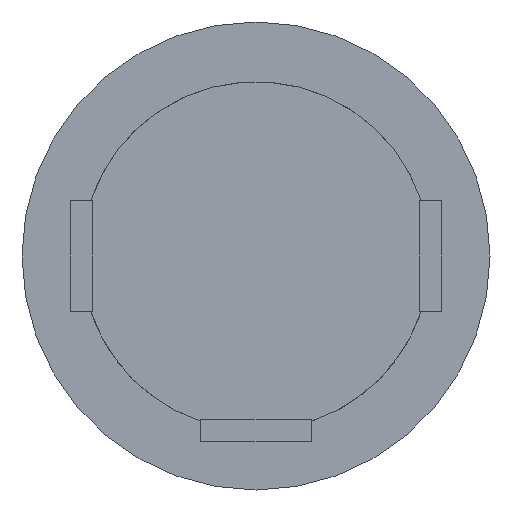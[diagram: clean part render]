
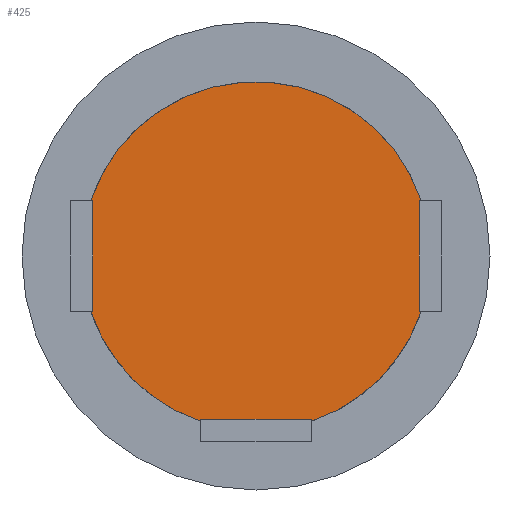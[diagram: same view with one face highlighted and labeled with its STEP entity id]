
A CAD part, front view. The second image highlights one B-rep face of the part: STEP entity #425.
In plain terms, the highlighted planar face has unit normal (0, -1, 0).
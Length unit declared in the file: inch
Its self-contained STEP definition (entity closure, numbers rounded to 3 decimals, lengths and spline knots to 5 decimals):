
#8 = EDGE_CURVE ( 'NONE', #198, #204, #179, .T. ) ;
#17 = CARTESIAN_POINT ( 'NONE',  ( 0., -0.326, 0. ) ) ;
#23 = EDGE_CURVE ( 'NONE', #704, #107, #335, .T. ) ;
#24 = VERTEX_POINT ( 'NONE', #731 ) ;
#40 = CARTESIAN_POINT ( 'NONE',  ( -0.05, -0.326, -0.14935 ) ) ;
#45 = CARTESIAN_POINT ( 'NONE',  ( -0.05, -0.326, -0.1675 ) ) ;
#49 = CIRCLE ( 'NONE', #541, 0.1575 ) ;
#50 = CARTESIAN_POINT ( 'NONE',  ( -0.1475, -0.326, 0.05 ) ) ;
#61 = EDGE_CURVE ( 'NONE', #467, #630, #279, .T. ) ;
#64 = DIRECTION ( 'NONE',  ( 1., 0., 0. ) ) ;
#65 = CIRCLE ( 'NONE', #532, 0.1575 ) ;
#67 = EDGE_CURVE ( 'NONE', #140, #170, #429, .T. ) ;
#75 = CARTESIAN_POINT ( 'NONE',  ( 0.05, -0.326, -0.1475 ) ) ;
#84 = DIRECTION ( 'NONE',  ( 0., 0., -1. ) ) ;
#102 = CARTESIAN_POINT ( 'NONE',  ( 0.1475, -0.326, -0.05 ) ) ;
#107 = VERTEX_POINT ( 'NONE', #40 ) ;
#111 = VECTOR ( 'NONE', #725, 39.37008 ) ;
#132 = ORIENTED_EDGE ( 'NONE', *, *, #748, .F. ) ;
#136 = CARTESIAN_POINT ( 'NONE',  ( 0., -0.326, 0. ) ) ;
#139 = VECTOR ( 'NONE', #208, 39.37008 ) ;
#140 = VERTEX_POINT ( 'NONE', #450 ) ;
#156 = CARTESIAN_POINT ( 'NONE',  ( 0.14935, -0.326, 0.05 ) ) ;
#169 = VERTEX_POINT ( 'NONE', #102 ) ;
#170 = VERTEX_POINT ( 'NONE', #334 ) ;
#179 = LINE ( 'NONE', #679, #139 ) ;
#186 = CARTESIAN_POINT ( 'NONE',  ( -0.1475, -0.326, -0.05 ) ) ;
#196 = VECTOR ( 'NONE', #743, 39.37008 ) ;
#198 = VERTEX_POINT ( 'NONE', #156 ) ;
#200 = CARTESIAN_POINT ( 'NONE',  ( -0.1475, -0.326, 0.05 ) ) ;
#204 = VERTEX_POINT ( 'NONE', #337 ) ;
#205 = ORIENTED_EDGE ( 'NONE', *, *, #643, .T. ) ;
#208 = DIRECTION ( 'NONE',  ( -1., 0., 0. ) ) ;
#220 = DIRECTION ( 'NONE',  ( 0., 0., -1. ) ) ;
#228 = CARTESIAN_POINT ( 'NONE',  ( 0., -0.326, 0. ) ) ;
#239 = EDGE_CURVE ( 'NONE', #169, #24, #241, .T. ) ;
#241 = LINE ( 'NONE', #331, #196 ) ;
#244 = ORIENTED_EDGE ( 'NONE', *, *, #339, .T. ) ;
#248 = VECTOR ( 'NONE', #388, 39.37008 ) ;
#250 = CIRCLE ( 'NONE', #514, 0.1575 ) ;
#252 = VERTEX_POINT ( 'NONE', #272 ) ;
#257 = LINE ( 'NONE', #50, #248 ) ;
#258 = EDGE_CURVE ( 'NONE', #204, #169, #422, .T. ) ;
#261 = DIRECTION ( 'NONE',  ( 0., 0., -1. ) ) ;
#272 = CARTESIAN_POINT ( 'NONE',  ( -0.14935, -0.326, 0.05 ) ) ;
#275 = EDGE_CURVE ( 'NONE', #198, #252, #65, .T. ) ;
#279 = LINE ( 'NONE', #670, #111 ) ;
#283 = ORIENTED_EDGE ( 'NONE', *, *, #61, .F. ) ;
#286 = FACE_OUTER_BOUND ( 'NONE', #727, .T. ) ;
#288 = ORIENTED_EDGE ( 'NONE', *, *, #8, .F. ) ;
#292 = ORIENTED_EDGE ( 'NONE', *, *, #23, .F. ) ;
#301 = CARTESIAN_POINT ( 'NONE',  ( -0.14935, -0.326, -0.05 ) ) ;
#308 = EDGE_CURVE ( 'NONE', #511, #467, #518, .T. ) ;
#322 = VECTOR ( 'NONE', #64, 39.37008 ) ;
#331 = CARTESIAN_POINT ( 'NONE',  ( 0.1475, -0.326, -0.05 ) ) ;
#334 = CARTESIAN_POINT ( 'NONE',  ( 0.05, -0.326, -0.14935 ) ) ;
#335 = LINE ( 'NONE', #45, #716 ) ;
#337 = CARTESIAN_POINT ( 'NONE',  ( 0.1475, -0.326, 0.05 ) ) ;
#339 = EDGE_CURVE ( 'NONE', #170, #24, #49, .T. ) ;
#344 = VECTOR ( 'NONE', #589, 39.37008 ) ;
#348 = DIRECTION ( 'NONE',  ( 0., 0., -1. ) ) ;
#357 = CARTESIAN_POINT ( 'NONE',  ( -0.1475, -0.326, -0.05 ) ) ;
#365 = ORIENTED_EDGE ( 'NONE', *, *, #258, .F. ) ;
#368 = PLANE ( 'NONE',  #696 ) ;
#388 = DIRECTION ( 'NONE',  ( -1., 0., 0. ) ) ;
#422 = LINE ( 'NONE', #508, #661 ) ;
#425 = ADVANCED_FACE ( 'NONE', ( #286 ), #368, .T. ) ;
#429 = LINE ( 'NONE', #438, #622 ) ;
#438 = CARTESIAN_POINT ( 'NONE',  ( 0.05, -0.326, 0. ) ) ;
#450 = CARTESIAN_POINT ( 'NONE',  ( 0.05, -0.326, -0.1475 ) ) ;
#464 = DIRECTION ( 'NONE',  ( 0., -1., 0. ) ) ;
#467 = VERTEX_POINT ( 'NONE', #186 ) ;
#508 = CARTESIAN_POINT ( 'NONE',  ( 0.1475, -0.326, -0.05 ) ) ;
#511 = VERTEX_POINT ( 'NONE', #301 ) ;
#514 = AXIS2_PLACEMENT_3D ( 'NONE', #136, #549, #84 ) ;
#517 = DIRECTION ( 'NONE',  ( 0., -1., 0. ) ) ;
#518 = LINE ( 'NONE', #357, #322 ) ;
#521 = CARTESIAN_POINT ( 'NONE',  ( 0., -0.326, 0. ) ) ;
#523 = EDGE_CURVE ( 'NONE', #140, #704, #580, .T. ) ;
#530 = ORIENTED_EDGE ( 'NONE', *, *, #523, .F. ) ;
#532 = AXIS2_PLACEMENT_3D ( 'NONE', #521, #464, #639 ) ;
#541 = AXIS2_PLACEMENT_3D ( 'NONE', #228, #517, #348 ) ;
#549 = DIRECTION ( 'NONE',  ( 0., -1., 0. ) ) ;
#558 = ORIENTED_EDGE ( 'NONE', *, *, #239, .F. ) ;
#559 = DIRECTION ( 'NONE',  ( 0., 0., -1. ) ) ;
#580 = LINE ( 'NONE', #75, #344 ) ;
#584 = ORIENTED_EDGE ( 'NONE', *, *, #308, .F. ) ;
#589 = DIRECTION ( 'NONE',  ( -1., 0., 0. ) ) ;
#603 = ORIENTED_EDGE ( 'NONE', *, *, #67, .T. ) ;
#622 = VECTOR ( 'NONE', #261, 39.37008 ) ;
#630 = VERTEX_POINT ( 'NONE', #200 ) ;
#639 = DIRECTION ( 'NONE',  ( 0., 0., -1. ) ) ;
#643 = EDGE_CURVE ( 'NONE', #511, #107, #250, .T. ) ;
#661 = VECTOR ( 'NONE', #220, 39.37008 ) ;
#670 = CARTESIAN_POINT ( 'NONE',  ( -0.1475, -0.326, -0.05 ) ) ;
#679 = CARTESIAN_POINT ( 'NONE',  ( 0.1475, -0.326, 0.05 ) ) ;
#680 = CARTESIAN_POINT ( 'NONE',  ( -0.05, -0.326, -0.1475 ) ) ;
#696 = AXIS2_PLACEMENT_3D ( 'NONE', #17, #712, #706 ) ;
#704 = VERTEX_POINT ( 'NONE', #680 ) ;
#706 = DIRECTION ( 'NONE',  ( 0., 0., -1. ) ) ;
#712 = DIRECTION ( 'NONE',  ( 0., -1., 0. ) ) ;
#716 = VECTOR ( 'NONE', #559, 39.37008 ) ;
#718 = ORIENTED_EDGE ( 'NONE', *, *, #275, .T. ) ;
#725 = DIRECTION ( 'NONE',  ( 0., 0., 1. ) ) ;
#727 = EDGE_LOOP ( 'NONE', ( #244, #558, #365, #288, #718, #132, #283, #584, #205, #292, #530, #603 ) ) ;
#731 = CARTESIAN_POINT ( 'NONE',  ( 0.14935, -0.326, -0.05 ) ) ;
#743 = DIRECTION ( 'NONE',  ( 1., 0., 0. ) ) ;
#748 = EDGE_CURVE ( 'NONE', #630, #252, #257, .T. ) ;
